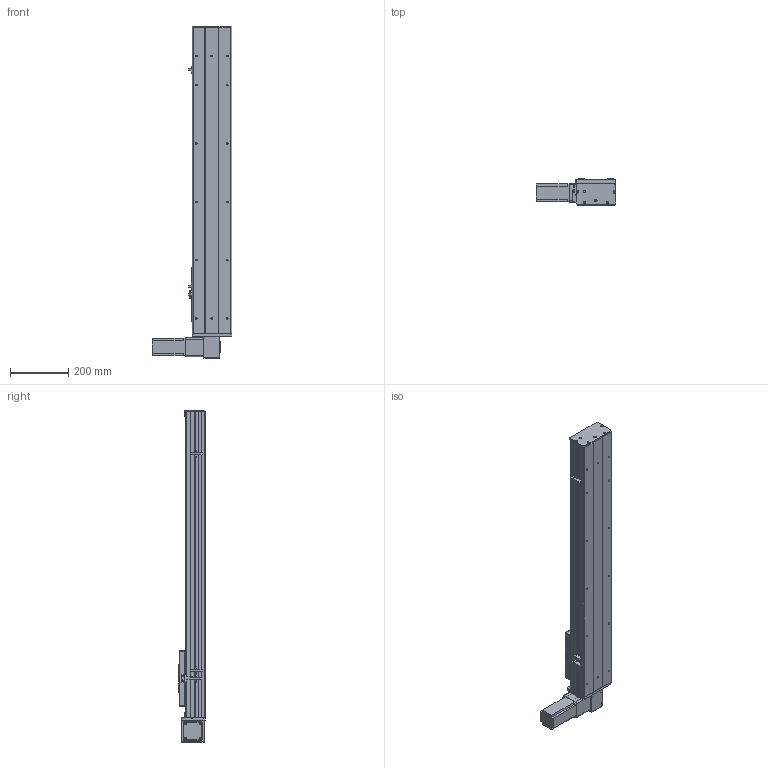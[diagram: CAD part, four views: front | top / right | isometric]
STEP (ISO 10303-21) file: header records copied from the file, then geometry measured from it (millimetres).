
FILE_DESCRIPTION (( 'STEP AP203' ), '1' );
FILE_NAME ('Y135CB-D90-S750-BD-P400W.STEP', '2020-02-19T03:06:40', ( '微软用户' ), ( '微软中国' ), 'SwSTEP 2.0', 'SolidWorks 2017', '' );
FILE_SCHEMA (( 'CONFIG_CONTROL_DESIGN' ));
Length unit declared in the file: millimetre
Products named in the file (16): Y135C-陔俋离換覜結え-; 35CB---喘謫眊楊擘啣; 5C--俋欶; 0B-埴倛裔啣; C-雄赽釱--; 0B-源倛裔啣; san松下电机400不带刹车----; 5CB --掛极耜裔啣-; Y10B--々湍喘謫眊--666; C-詩湍揤踡え-陔; 0B-薊粣ん眊; 135CB--詩湍-CE; Y135CB-耜裔; Y135CB-D90-S750-BD-P400W; Y100-135俋离換覜ん--; 135CB---遴掛极.-
Assembly tree (19 placements, depth 2):
  Y135CB-D90-S750-BD-P400W
    Y135CB-耜裔
    135CB---遴掛极.-
    35CB---喘謫眊楊擘啣
    0B-埴倛裔啣
    0B-源倛裔啣
    san松下电机400不带刹车----
    5CB --掛极耜裔啣-  x2
    C-詩湍揤踡え-陔  x2
    135CB--詩湍-CE
    Y100-135俋离換覜ん--  x3
    Y135C-陔俋离換覜結え-
    5C--俋欶
    C-雄赽釱--
    Y10B--々湍喘謫眊--666
    0B-薊粣ん眊
Bounding box: 272 x 91 x 1138 mm (x, y, z)
Volume: 3737507.6 mm3; surface area: 1411892.8 mm2
Topology: 19 solids, 19 shells, 851 faces, 2248 edges, 1488 vertices
Faces by surface type: cylinder 420, plane 415, cone 16
Entity records: 25804 total; most frequent: DIRECTION 4300, CARTESIAN_POINT 4203, ORIENTED_EDGE 3972, EDGE_CURVE 1986, AXIS2_PLACEMENT_3D 1573, VERTEX_POINT 1316, LINE 1154, VECTOR 1154
